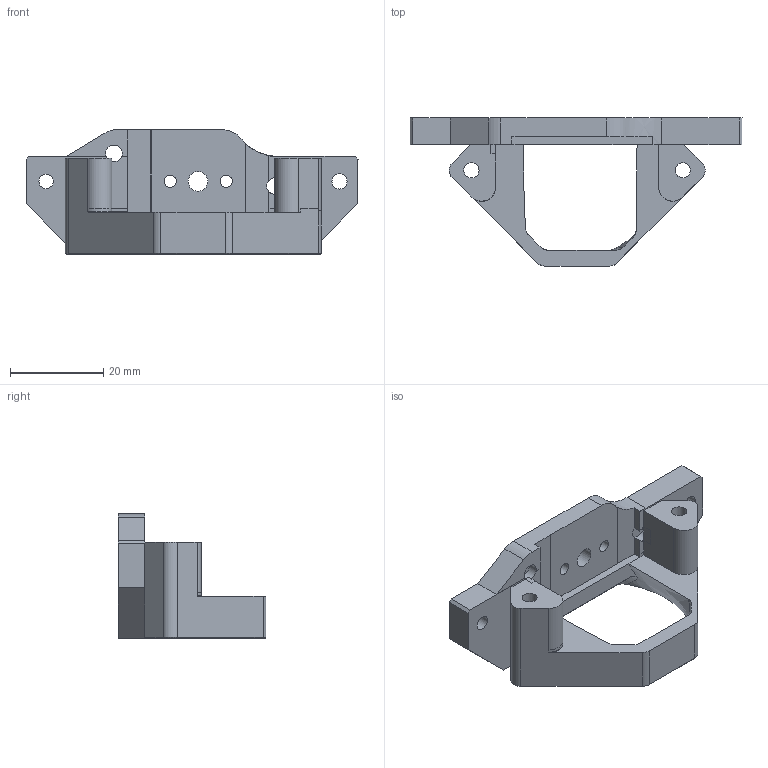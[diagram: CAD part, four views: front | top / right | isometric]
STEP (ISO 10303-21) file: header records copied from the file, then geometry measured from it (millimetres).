
FILE_DESCRIPTION(/* description */ (''),/* implementation_level */ '2;1');
FILE_NAME(/* name */ 'mount-orbiter-1.5-nf-crazy-plus-2.1.step',/* time_stamp */ '2023-01-19T19:09:39+01:00',/* author */ (''),/* organization */ (''),/* preprocessor_version */ 'ST-DEVELOPER v19.2',/* originating_system */ 'Autodesk Translation Framework v11.17.0.187',/* authorisation */ '');
FILE_SCHEMA (('AUTOMOTIVE_DESIGN { 1 0 10303 214 3 1 1 }'));
Length unit declared in the file: millimetre
Products named in the file (1): mount-orbiter-1.5-mosquito-2.1
Bounding box: 71.07 x 31.68 x 26.66 mm (x, y, z)
Volume: 12427.4 mm3; surface area: 7393.4 mm2
Topology: 1 solids, 1 shells, 104 faces, 303 edges, 200 vertices
Faces by surface type: plane 55, cylinder 24, bspline 13, cone 12
Full cylindrical faces by diameter (mm): 2.6 x2, 3.1 x1, 3.25 x4, 3.6 x2, 4.2 x1, 4.6 x2
Entity records: 4315 total; most frequent: CARTESIAN_POINT 1528, ORIENTED_EDGE 606, DIRECTION 524, EDGE_CURVE 303, VERTEX_POINT 200, LINE 182, VECTOR 182, AXIS2_PLACEMENT_3D 171
